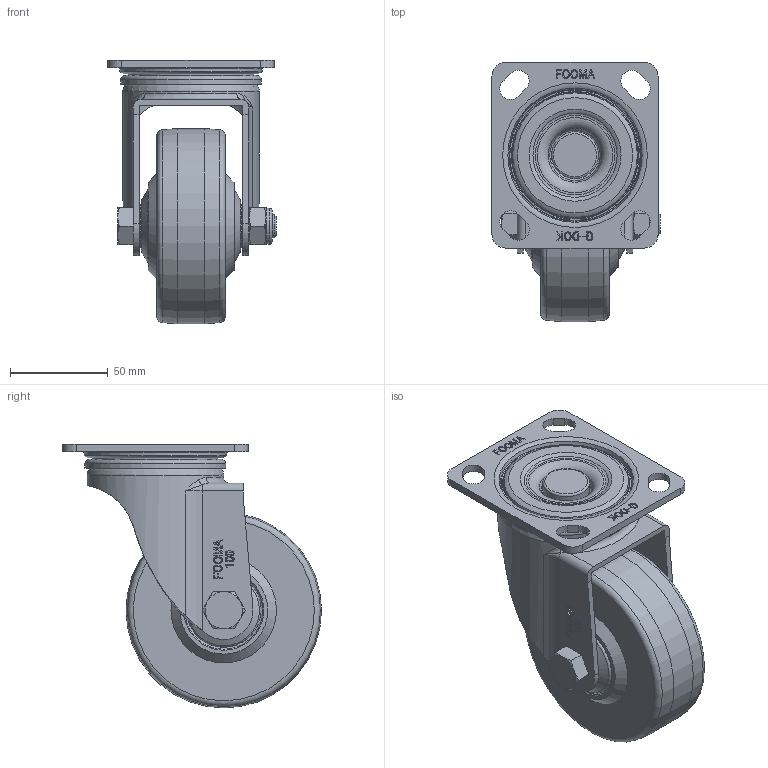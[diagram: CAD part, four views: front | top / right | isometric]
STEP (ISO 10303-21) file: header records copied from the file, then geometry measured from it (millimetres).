
FILE_DESCRIPTION(/* description */ (''),/* implementation_level */ '2;1');
FILE_NAME(/* name */ 'E:\★.DWG\★개발도면\PLM-SERIES(경중하중)-2016\홈페이지용\STEP\PLM-100-ASF-MCD.stp',/* time_stamp */ '2018-02-20T17:50:50+09:00',/* author */ ('장용하'),/* organization */ (''),/* preprocessor_version */ 'ST-DEVELOPER v16.13',/* originating_system */ 'Autodesk Inventor 2018',/* authorisation */ '');
FILE_SCHEMA (('AUTOMOTIVE_DESIGN { 1 0 10303 214 3 1 1 }'));
Length unit declared in the file: millimetre
Products named in the file (1): PLM-100-ASF-MCD ASSY_Shrinkwrap_1
Bounding box: 86 x 132.5 x 135 mm (x, y, z)
Volume: 397215.8 mm3; surface area: 78284.5 mm2
Topology: 1 solids, 1 shells, 707 faces, 1843 edges, 1197 vertices
Faces by surface type: plane 386, bspline 189, torus 57, cylinder 47, cone 28
Full cylindrical faces by diameter (mm): 12 x1, 18.5 x1, 22 x4, 24 x1, 24.4 x1, 36 x2, 38 x2, 40 x2, 53.029 x1, 54.5 x1, 64 x1, 64.418 x2, 70 x1, 70.6 x1, 72 x1, 100 x1
Entity records: 22636 total; most frequent: CARTESIAN_POINT 5977, ORIENTED_EDGE 3494, DIRECTION 2807, EDGE_CURVE 1747, VERTEX_POINT 1183, AXIS2_PLACEMENT_3D 973, LINE 861, VECTOR 861
